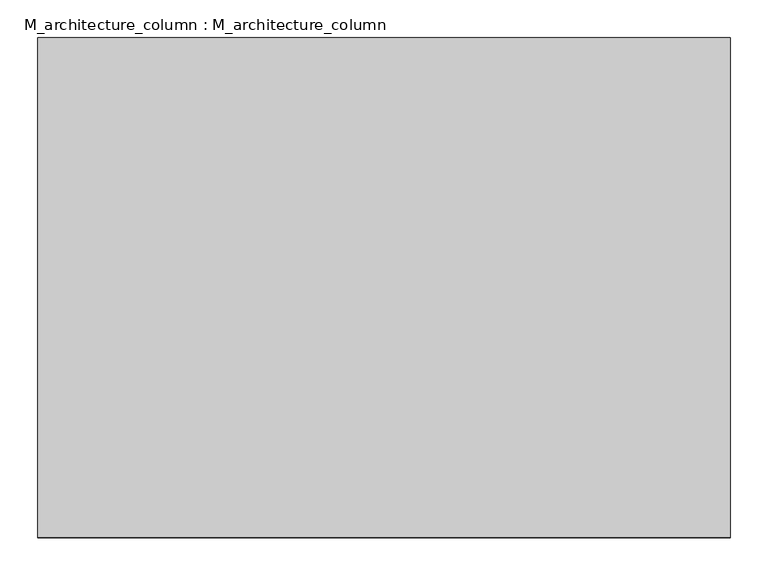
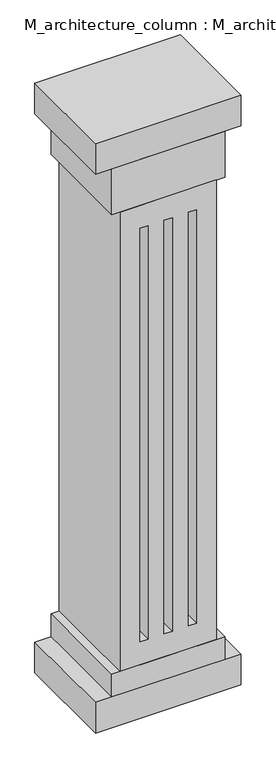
"""IFC4 building model written with IfcOpenShell, lengths in millimetres: proxy geometry, M_architecture_column : M_architecture_column."""

from ifc_helpers import new_model, si_unit, frame, origin, origin_with_axes, place, context, project, spatial, polyline, outline, extrude, faceted_brep, source, transform, mapped, element, save


def m_architecture_column_m_architecture_column_4d92dcec(model_context):
    return source(origin(), model_context, "Body", "SolidModel", [
        faceted_brep([(304.0, -3048.0, 3402.0), (-304.0, -3048.0, 3402.0), (-304.0, -3048.0, 355.0), (304.0, -3048.0, 355.0), (-177.0, -3048.0, 507.0), (-177.0, -3048.0, 3250.0), (-126.0, -3048.0, 3250.0), (-126.0, -3048.0, 507.0), (-25.5, -3048.0, 507.0), (-25.5, -3048.0, 3250.0), (25.5, -3048.0, 3250.0), (25.5, -3048.0, 507.0), (126.5, -3048.0, 507.0), (126.5, -3048.0, 3250.0), (177.5, -3048.0, 3250.0), (177.5, -3048.0, 507.0), (304.0, -2388.0, 3402.0), (304.0, -2388.0, 355.0), (-304.0, -2388.0, 355.0), (-304.0, -2388.0, 3402.0), (-177.0, -2896.0, 3250.0), (-177.0, -2896.0, 507.0), (-126.0, -2896.0, 507.0), (-126.0, -2896.0, 3250.0), (-25.5, -2896.0, 3250.0), (-25.5, -2896.0, 507.0), (25.5, -2896.0, 507.0), (25.5, -2896.0, 3250.0), (126.5, -2896.0, 3250.0), (126.5, -2896.0, 507.0), (177.5, -2896.0, 507.0), (177.5, -2896.0, 3250.0)], [[[0, 1, 2, 3], [4, 5, 6, 7], [8, 9, 10, 11], [12, 13, 14, 15]], [[16, 17, 18, 19]], [[1, 0, 16, 19]], [[2, 1, 19, 18]], [[3, 2, 18, 17]], [[0, 3, 17, 16]], [[20, 21, 22, 23]], [[21, 20, 5, 4]], [[22, 21, 4, 7]], [[23, 22, 7, 6]], [[20, 23, 6, 5]], [[24, 25, 26, 27]], [[25, 24, 9, 8]], [[26, 25, 8, 11]], [[27, 26, 11, 10]], [[24, 27, 10, 9]], [[28, 29, 30, 31]], [[29, 28, 13, 12]], [[30, 29, 12, 15]], [[31, 30, 15, 14]], [[28, 31, 14, 13]]]),
        extrude(outline(polyline([(457.0, -3048.0), (-457.0, -3048.0), (-457.0, -2388.0), (457.0, -2388.0), (457.0, -3048.0)])), frame((0.0, 0.0, 3707.0), z_axis=(0.0, 0.0, 1.0), x_axis=(1.0, 0.0, 0.0)), (0.0, 0.0, 1.0), 203.0),
        extrude(outline(polyline([(355.0, -3048.0), (-355.0, -3048.0), (-355.0, -2388.0), (355.0, -2388.0), (355.0, -3048.0)])), frame((0.0, 0.0, 3402.0), z_axis=(0.0, 0.0, 1.0), x_axis=(1.0, 0.0, 0.0)), (0.0, 0.0, 1.0), 305.0),
        extrude(outline(polyline([(457.0, -3048.0), (-457.0, -3048.0), (-457.0, -2388.0), (457.0, -2388.0), (457.0, -3048.0)])), origin_with_axes(), (0.0, 0.0, 1.0), 203.0),
        extrude(outline(polyline([(355.0, -3048.0), (-355.0, -3048.0), (-355.0, -2388.0), (355.0, -2388.0), (355.0, -3048.0)])), frame((0.0, 0.0, 203.0), z_axis=(0.0, 0.0, 1.0), x_axis=(1.0, 0.0, 0.0)), (0.0, 0.0, 1.0), 152.0),
    ])


if __name__ == "__main__":
    model = new_model("IFC4")
    model_context = context("Model", 3, world=origin())
    ifc_project = project(units=[si_unit("LENGTHUNIT", "METRE", prefix="MILLI")], contexts=[model_context])
    site = spatial("IfcSite", under=ifc_project)
    building = spatial("IfcBuilding", under=site)
    placement = place(None, origin())
    m_architecture_column_m_architecture_column_shape = m_architecture_column_m_architecture_column_4d92dcec(model_context)
    element("IfcBuildingElementProxy", 1, Name="M_architecture_column : M_architecture_column", ObjectType="M_architecture_column : M_architecture_column", at=placement, inside=building, context=model_context, shape_type="MappedRepresentation", body=[
        mapped(m_architecture_column_m_architecture_column_shape, transform((0.0, 0.0, 0.0), x_axis=(1.0, 0.0, 0.0), y_axis=(0.0, 1.0, 0.0), z_axis=(0.0, 0.0, 1.0))),
    ])
    save(model, "model.ifc")
